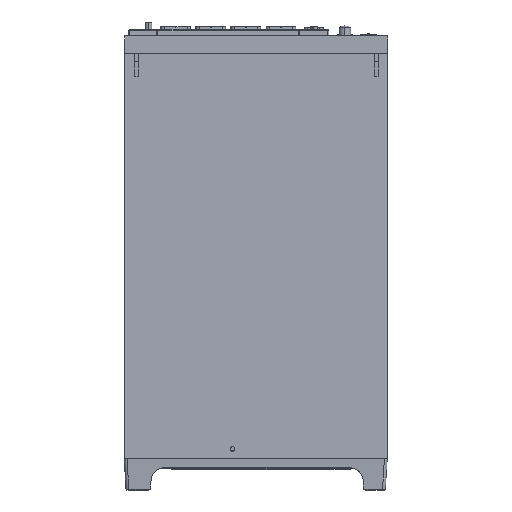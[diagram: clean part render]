
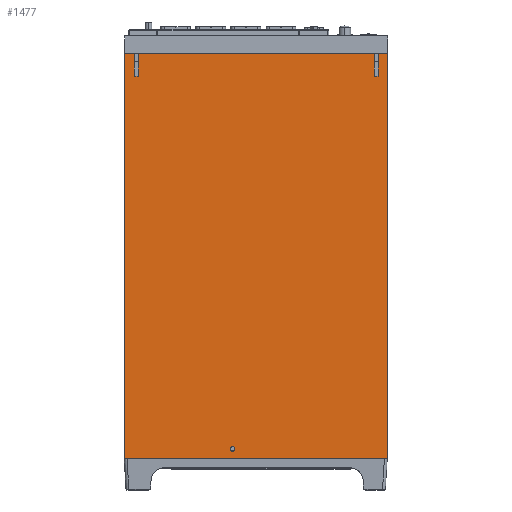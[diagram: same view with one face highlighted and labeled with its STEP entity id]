
A CAD part, front view. The second image highlights one B-rep face of the part: STEP entity #1477.
In plain terms, the highlighted planar face has unit normal (0, -1, 0).
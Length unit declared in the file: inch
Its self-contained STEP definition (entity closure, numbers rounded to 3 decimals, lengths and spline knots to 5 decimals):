
#155=DIRECTION('',(1.,0.,0.));
#156=VECTOR('',#155,8.41);
#157=CARTESIAN_POINT('',(-4.205,-1.7345,-6.4875));
#158=LINE('',#157,#156);
#251=DIRECTION('',(1.,0.,0.));
#252=VECTOR('',#251,0.305);
#253=CARTESIAN_POINT('',(3.9,-1.7345,6.4875));
#254=LINE('',#253,#252);
#259=DIRECTION('',(1.,0.,0.));
#260=VECTOR('',#259,0.305);
#261=CARTESIAN_POINT('',(-4.205,-1.7345,6.4875));
#262=LINE('',#261,#260);
#295=DIRECTION('',(1.,0.,0.));
#296=VECTOR('',#295,7.55);
#297=CARTESIAN_POINT('',(-3.775,-1.7345,6.4875));
#298=LINE('',#297,#296);
#363=DIRECTION('',(0.,0.,-1.));
#364=VECTOR('',#363,0.73);
#365=CARTESIAN_POINT('',(3.9,-1.7345,6.4875));
#366=LINE('',#365,#364);
#367=DIRECTION('',(0.,0.,1.));
#368=VECTOR('',#367,12.975);
#369=CARTESIAN_POINT('',(-4.205,-1.7345,-6.4875));
#370=LINE('',#369,#368);
#371=DIRECTION('',(0.,0.,-1.));
#372=VECTOR('',#371,0.73);
#373=CARTESIAN_POINT('',(-3.9,-1.7345,6.4875));
#374=LINE('',#373,#372);
#375=DIRECTION('',(1.,0.,0.));
#376=VECTOR('',#375,0.125);
#377=CARTESIAN_POINT('',(-3.9,-1.7345,5.7575));
#378=LINE('',#377,#376);
#379=DIRECTION('',(0.,0.,-1.));
#380=VECTOR('',#379,0.73);
#381=CARTESIAN_POINT('',(-3.775,-1.7345,6.4875));
#382=LINE('',#381,#380);
#383=DIRECTION('',(0.,0.,-1.));
#384=VECTOR('',#383,0.73);
#385=CARTESIAN_POINT('',(3.775,-1.7345,6.4875));
#386=LINE('',#385,#384);
#387=DIRECTION('',(1.,0.,0.));
#388=VECTOR('',#387,0.125);
#389=CARTESIAN_POINT('',(3.775,-1.7345,5.7575));
#390=LINE('',#389,#388);
#391=CARTESIAN_POINT('',(-0.76,-1.7345,-6.1725));
#392=DIRECTION('',(0.,-1.,0.));
#393=DIRECTION('',(0.,0.,-1.));
#394=AXIS2_PLACEMENT_3D('',#391,#392,#393);
#396=CARTESIAN_POINT('',(-0.76,-1.7345,-6.1725));
#397=DIRECTION('',(0.,-1.,0.));
#398=DIRECTION('',(0.,0.,1.));
#399=AXIS2_PLACEMENT_3D('',#396,#397,#398);
#413=DIRECTION('',(0.,0.,1.));
#414=VECTOR('',#413,12.975);
#415=CARTESIAN_POINT('',(4.205,-1.7345,-6.4875));
#416=LINE('',#415,#414);
#980=CARTESIAN_POINT('',(-4.205,-1.7345,-6.4875));
#982=VERTEX_POINT('',#980);
#983=CARTESIAN_POINT('',(4.205,-1.7345,-6.4875));
#984=VERTEX_POINT('',#983);
#999=CARTESIAN_POINT('',(-4.205,-1.7345,6.4875));
#1000=VERTEX_POINT('',#999);
#1001=CARTESIAN_POINT('',(4.205,-1.7345,6.4875));
#1002=VERTEX_POINT('',#1001);
#1043=CARTESIAN_POINT('',(3.9,-1.7345,6.4875));
#1045=VERTEX_POINT('',#1043);
#1047=CARTESIAN_POINT('',(3.775,-1.7345,6.4875));
#1049=VERTEX_POINT('',#1047);
#1051=CARTESIAN_POINT('',(-3.775,-1.7345,6.4875));
#1053=VERTEX_POINT('',#1051);
#1055=CARTESIAN_POINT('',(-3.9,-1.7345,6.4875));
#1057=VERTEX_POINT('',#1055);
#1059=CARTESIAN_POINT('',(3.9,-1.7345,5.7575));
#1060=VERTEX_POINT('',#1059);
#1061=CARTESIAN_POINT('',(3.775,-1.7345,5.7575));
#1062=VERTEX_POINT('',#1061);
#1063=CARTESIAN_POINT('',(-3.9,-1.7345,5.7575));
#1064=CARTESIAN_POINT('',(-3.775,-1.7345,5.7575));
#1065=VERTEX_POINT('',#1063);
#1066=VERTEX_POINT('',#1064);
#1235=CARTESIAN_POINT('',(-0.76,-1.7345,-6.2445));
#1236=CARTESIAN_POINT('',(-0.76,-1.7345,-6.1005));
#1237=VERTEX_POINT('',#1235);
#1238=VERTEX_POINT('',#1236);
#1446=CARTESIAN_POINT('',(-4.205,-1.7345,-6.4875));
#1447=DIRECTION('',(0.,-1.,0.));
#1448=DIRECTION('',(1.,0.,0.));
#1449=AXIS2_PLACEMENT_3D('',#1446,#1447,#1448);
#1450=PLANE('',#1449);
#1451=ORIENTED_EDGE('',*,*,#1437,.F.);
#1452=ORIENTED_EDGE('',*,*,#1353,.T.);
#1454=ORIENTED_EDGE('',*,*,#1453,.F.);
#1455=ORIENTED_EDGE('',*,*,#1250,.F.);
#1456=ORIENTED_EDGE('',*,*,#1294,.T.);
#1457=ORIENTED_EDGE('',*,*,#1365,.T.);
#1459=ORIENTED_EDGE('',*,*,#1458,.T.);
#1461=ORIENTED_EDGE('',*,*,#1460,.T.);
#1463=ORIENTED_EDGE('',*,*,#1462,.F.);
#1464=ORIENTED_EDGE('',*,*,#1389,.T.);
#1466=ORIENTED_EDGE('',*,*,#1465,.T.);
#1468=ORIENTED_EDGE('',*,*,#1467,.T.);
#1469=EDGE_LOOP('',(#1451,#1452,#1454,#1455,#1456,#1457,#1459,#1461,#1463,#1464,
#1466,#1468));
#1470=FACE_OUTER_BOUND('',#1469,.F.);
#1472=ORIENTED_EDGE('',*,*,#1471,.T.);
#1474=ORIENTED_EDGE('',*,*,#1473,.T.);
#1475=EDGE_LOOP('',(#1472,#1474));
#1476=FACE_BOUND('',#1475,.F.);
#1477=ADVANCED_FACE('',(#1470,#1476),#1450,.T.);
#395=CIRCLE('',#394,0.072);
#400=CIRCLE('',#399,0.072);
#1250=EDGE_CURVE('',#982,#984,#158,.T.);
#1294=EDGE_CURVE('',#982,#1000,#370,.T.);
#1353=EDGE_CURVE('',#1045,#1002,#254,.T.);
#1365=EDGE_CURVE('',#1000,#1057,#262,.T.);
#1389=EDGE_CURVE('',#1053,#1049,#298,.T.);
#1437=EDGE_CURVE('',#1045,#1060,#366,.T.);
#1453=EDGE_CURVE('',#984,#1002,#416,.T.);
#1458=EDGE_CURVE('',#1057,#1065,#374,.T.);
#1460=EDGE_CURVE('',#1065,#1066,#378,.T.);
#1462=EDGE_CURVE('',#1053,#1066,#382,.T.);
#1465=EDGE_CURVE('',#1049,#1062,#386,.T.);
#1467=EDGE_CURVE('',#1062,#1060,#390,.T.);
#1471=EDGE_CURVE('',#1237,#1238,#395,.T.);
#1473=EDGE_CURVE('',#1238,#1237,#400,.T.);
